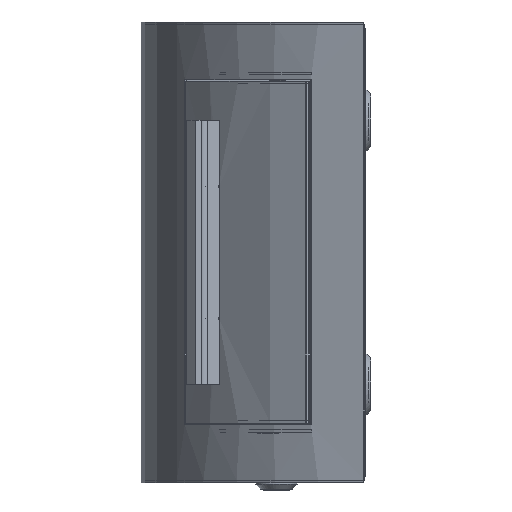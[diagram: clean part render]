
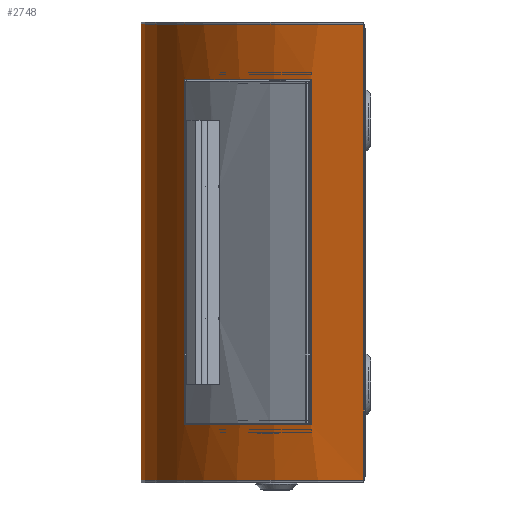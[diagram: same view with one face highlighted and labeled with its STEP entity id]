
A CAD part, left-side view. The second image highlights one B-rep face of the part: STEP entity #2748.
In plain terms, the highlighted cylindrical face has radius 177 mm (diameter 354 mm), a partial arc.
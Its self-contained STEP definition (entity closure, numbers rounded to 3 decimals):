
#1381=CARTESIAN_POINT('',(370.026,-107.018,138.0));
#1382=VERTEX_POINT('',#1381);
#1389=CARTESIAN_POINT('',(198.081,27.982,138.0));
#1390=VERTEX_POINT('',#1389);
#1391=CARTESIAN_POINT('',(198.081,-149.018,138.0));
#1392=DIRECTION('',(0.0,0.0,-1.));
#1393=DIRECTION('',(-0.971,-0.237,0.0));
#1394=AXIS2_PLACEMENT_3D('',#1391,#1392,#1393);
#1395=CIRCLE('',#1394,177.0);
#1396=EDGE_CURVE('',#1390,#1382,#1395,.T.);
#2312=CARTESIAN_POINT('',(291.227,1.491,104.5));
#2313=VERTEX_POINT('',#2312);
#2314=CARTESIAN_POINT('',(291.227,1.491,-104.5));
#2315=VERTEX_POINT('',#2314);
#2316=CARTESIAN_POINT('',(291.227,1.491,104.5));
#2317=DIRECTION('',(0.0,0.0,-1.0));
#2318=VECTOR('',#2317,209.);
#2319=LINE('',#2316,#2318);
#2320=EDGE_CURVE('',#2313,#2315,#2319,.T.);
#2352=CARTESIAN_POINT('',(358.8,-74.866,-104.5));
#2353=VERTEX_POINT('',#2352);
#2354=CARTESIAN_POINT('',(198.081,-149.018,-104.5));
#2355=DIRECTION('',(0.0,0.0,-1.));
#2356=DIRECTION('',(-0.971,-0.237,0.0));
#2357=AXIS2_PLACEMENT_3D('',#2354,#2355,#2356);
#2358=CIRCLE('',#2357,177.0);
#2359=EDGE_CURVE('',#2315,#2353,#2358,.T.);
#2385=CARTESIAN_POINT('',(358.8,-74.866,104.5));
#2386=VERTEX_POINT('',#2385);
#2387=CARTESIAN_POINT('',(358.8,-74.866,-104.5));
#2388=DIRECTION('',(0.0,0.0,1.0));
#2389=VECTOR('',#2388,209.0);
#2390=LINE('',#2387,#2389);
#2391=EDGE_CURVE('',#2353,#2386,#2390,.T.);
#2416=CARTESIAN_POINT('',(198.081,-149.018,104.5));
#2417=DIRECTION('',(0.0,0.0,1.));
#2418=DIRECTION('',(-0.971,-0.237,0.0));
#2419=AXIS2_PLACEMENT_3D('',#2416,#2417,#2418);
#2420=CIRCLE('',#2419,177.0);
#2421=EDGE_CURVE('',#2386,#2313,#2420,.T.);
#2700=CARTESIAN_POINT('',(198.081,27.982,-138.0));
#2701=VERTEX_POINT('',#2700);
#2702=CARTESIAN_POINT('',(198.081,27.982,-138.0));
#2703=DIRECTION('',(0.0,0.0,1.0));
#2704=VECTOR('',#2703,276.0);
#2705=LINE('',#2702,#2704);
#2706=EDGE_CURVE('',#2701,#1390,#2705,.T.);
#2718=CARTESIAN_POINT('',(198.081,-149.018,-138.0));
#2719=DIRECTION('',(0.0,0.0,1.0));
#2720=DIRECTION('',(-0.971,-0.237,0.0));
#2721=AXIS2_PLACEMENT_3D('',#2718,#2719,#2720);
#2722=CYLINDRICAL_SURFACE('',#2721,177.0);
#2723=ORIENTED_EDGE('',*,*,#1396,.T.);
#2724=CARTESIAN_POINT('',(370.026,-107.018,-138.0));
#2725=VERTEX_POINT('',#2724);
#2726=CARTESIAN_POINT('',(370.026,-107.018,-138.0));
#2727=DIRECTION('',(0.0,0.0,1.0));
#2728=VECTOR('',#2727,276.0);
#2729=LINE('',#2726,#2728);
#2730=EDGE_CURVE('',#2725,#1382,#2729,.T.);
#2731=ORIENTED_EDGE('',*,*,#2730,.F.);
#2732=CARTESIAN_POINT('',(198.081,-149.018,-138.0));
#2733=DIRECTION('',(0.0,0.0,-1.));
#2734=DIRECTION('',(-0.971,-0.237,0.0));
#2735=AXIS2_PLACEMENT_3D('',#2732,#2733,#2734);
#2736=CIRCLE('',#2735,177.0);
#2737=EDGE_CURVE('',#2701,#2725,#2736,.T.);
#2738=ORIENTED_EDGE('',*,*,#2737,.F.);
#2739=ORIENTED_EDGE('',*,*,#2706,.T.);
#2740=EDGE_LOOP('',(#2723,#2731,#2738,#2739));
#2741=FACE_OUTER_BOUND('',#2740,.T.);
#2742=ORIENTED_EDGE('',*,*,#2320,.T.);
#2743=ORIENTED_EDGE('',*,*,#2359,.T.);
#2744=ORIENTED_EDGE('',*,*,#2391,.T.);
#2745=ORIENTED_EDGE('',*,*,#2421,.T.);
#2746=EDGE_LOOP('',(#2742,#2743,#2744,#2745));
#2747=FACE_BOUND('',#2746,.T.);
#2748=ADVANCED_FACE('',(#2741,#2747),#2722,.T.);
